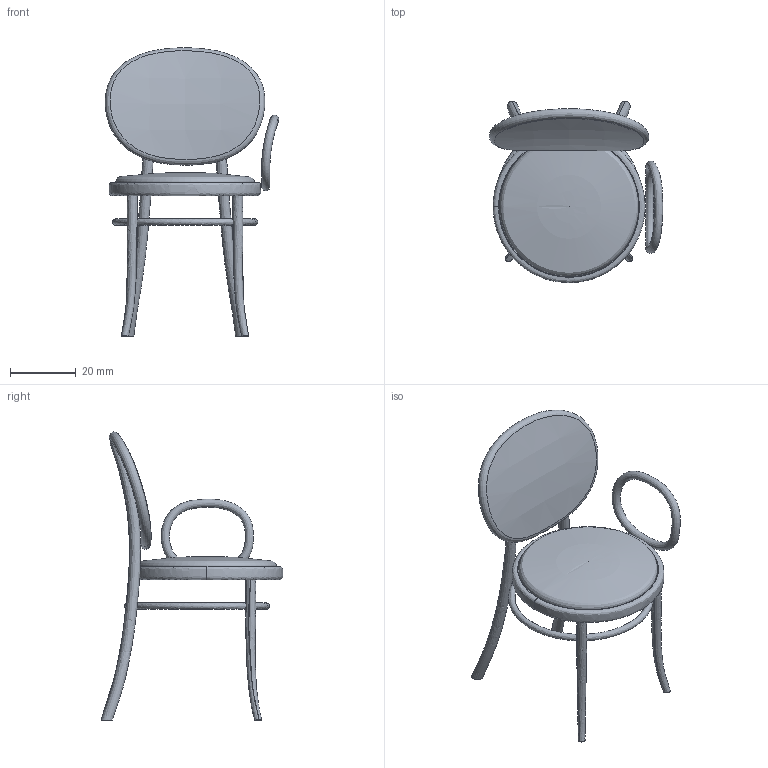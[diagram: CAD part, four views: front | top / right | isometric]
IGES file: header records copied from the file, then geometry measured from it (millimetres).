
Global section: file name: \\192.168.4.99\ufficio_tecnico\3d per sito\n.0\n.0.igs; native system: Rhinoceros ( Aug 10 2015 ); preprocessor: Trout Lake IGES 012 Aug 10 2015; date: 170609.080029; units: millimetre
Bounding box: 52.61 x 55.08 x 87.38 mm (x, y, z)
Surface area: 10516.5 mm2 (no closed solid volume)
Topology: 0 solids, 0 shells, 16 faces, 343 edges, 335 vertices
Faces by surface type: bspline 16
